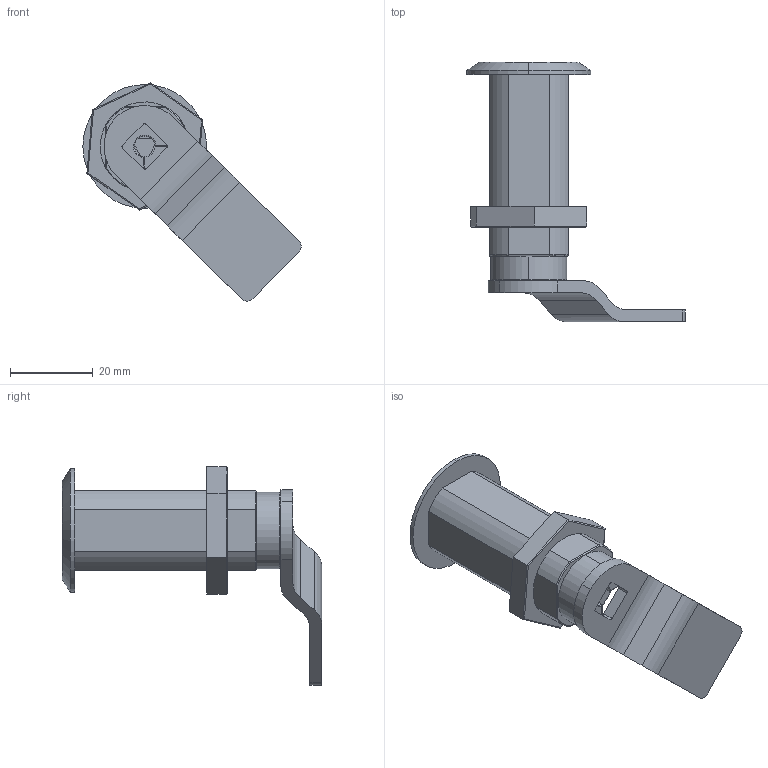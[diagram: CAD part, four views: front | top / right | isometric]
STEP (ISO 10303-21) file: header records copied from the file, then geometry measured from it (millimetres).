
FILE_DESCRIPTION (( 'STEP AP214' ), '1' );
FILE_NAME ('1.4022 Yksikielinen lukko 32 RST.STEP', '2026-03-10T12:31:12', ( '' ), ( '' ), 'SwSTEP 2.0', 'SolidWorks 2025', '' );
FILE_SCHEMA (( 'AUTOMOTIVE_DESIGN' ));
Length unit declared in the file: millimetre
Products named in the file (1): 1.4022 Yksikielinen lukko 32 RST
Bounding box: 52.9 x 62.9 x 52.92 mm (x, y, z)
Surface area: 9394.3 mm2 (no closed solid volume)
Topology: 0 solids, 4 shells, 88 faces, 218 edges, 139 vertices
Faces by surface type: cylinder 40, plane 36, torus 10, cone 2
Entity records: 3606 total; most frequent: CARTESIAN_POINT 532, DIRECTION 457, ORIENTED_EDGE 426, EDGE_CURVE 218, AXIS2_PLACEMENT_3D 168, VERTEX_POINT 139, LINE 121, VECTOR 121
